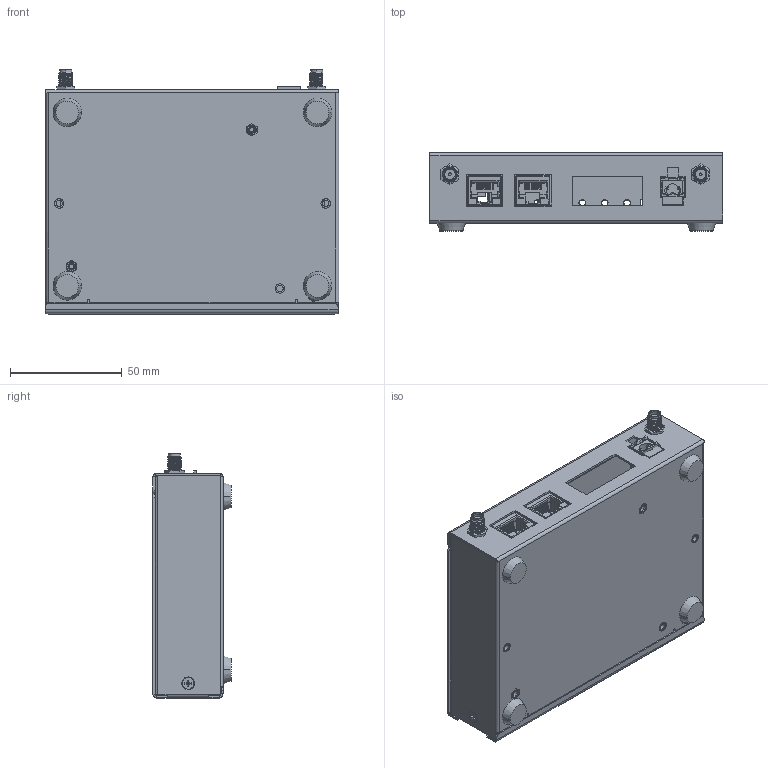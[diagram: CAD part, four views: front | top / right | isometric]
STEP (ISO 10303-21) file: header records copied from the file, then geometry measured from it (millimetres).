
FILE_DESCRIPTION((''),'2;1');
FILE_NAME('90001346_REV_A_ASM','2016-11-02T',('tmiller'),(''),'CREO PARAMETRIC BY PTC INC, 2016050','CREO PARAMETRIC BY PTC INC, 2016050','');
FILE_SCHEMA(('CONFIG_CONTROL_DESIGN'));
Length unit declared in the file: inch
Products named in the file (45): MSBR-43; MSBR-42; MSBR-41; MSBR-40; MSBR-39; MSBR-38; MSBR-37; MSBR-36; MSBR-35; MSBR-34; MSBR-33; MSBR-32; MSBR-31; MSBR-30; MSBR-29; MSBR-28; MSBR-27; MSBR-26; MSBR-25; MSBR-24; MSBR-23; MSBR-22; MSBR-21; MSBR-20; MSBR-19; MSBR-18; MSBR-17; MSBR-16; MSBR-15; MSBR-14; MSBR-13; MSBR-12; MSBR-11; MSBR-10; MSBR-9; MSBR-8; MSBR-7; MSBR-6; MSBR-5; MSBR-4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
Assembly tree (44 placements, depth 2):
  90001346_REV_A_ASM
    MSBR-43
    MSBR-42
    MSBR-41
    MSBR-40
    MSBR-39
    MSBR-38
    MSBR-37
    MSBR-36
    MSBR-35
    MSBR-34
    MSBR-33
    MSBR-32
    MSBR-31
    MSBR-30
    MSBR-29
    MSBR-28
    MSBR-27
    MSBR-26
    MSBR-25
    MSBR-24
    MSBR-23
    MSBR-22
    MSBR-21
    MSBR-20
    MSBR-19
    MSBR-18
    MSBR-17
    MSBR-16
    MSBR-15
    MSBR-14
    MSBR-13
    MSBR-12
    MSBR-11
    MSBR-10
    MSBR-9
    MSBR-8
    MSBR-7
    MSBR-6
    MSBR-5
    MSBR-4
    MSBR-3
    MSBR-2
    MSBR-1_1
    _90001346_REV_A
Bounding box: 131.19 x 34.85 x 109.11 mm (x, y, z)
Volume: 45457.4 mm3; surface area: 102703.3 mm2
Topology: 43 solids, 51 shells, 2386 faces, 6607 edges, 4321 vertices
Faces by surface type: plane 1583, cylinder 517, bspline 184, cone 80, extrusion 14, torus 4, sphere 4
Entity records: 93385 total; most frequent: CARTESIAN_POINT 32311, ORIENTED_EDGE 13206, DIRECTION 11451, EDGE_CURVE 6603, VECTOR 4709, LINE 4695, VERTEX_POINT 4340, AXIS2_PLACEMENT_3D 3371
